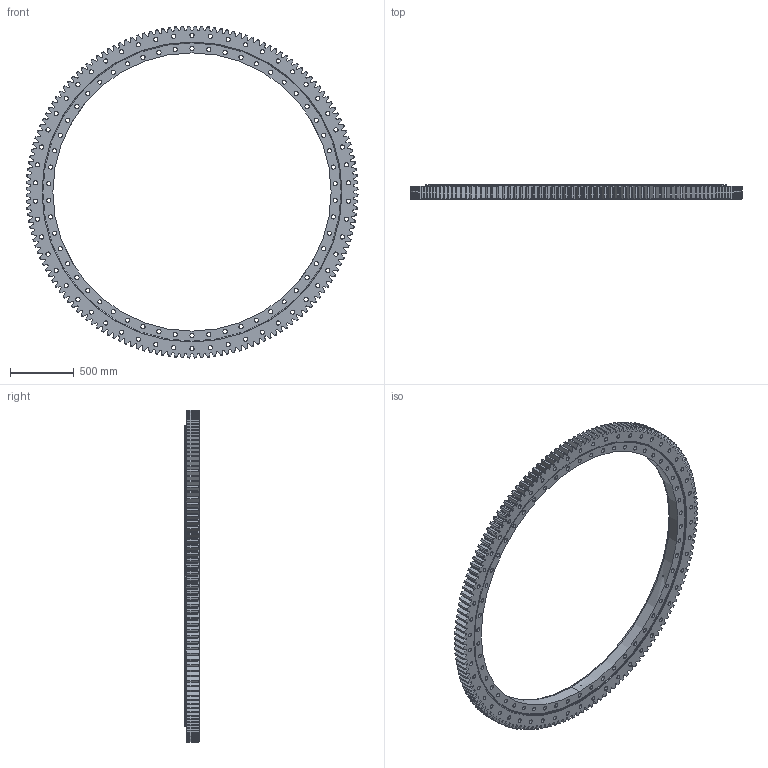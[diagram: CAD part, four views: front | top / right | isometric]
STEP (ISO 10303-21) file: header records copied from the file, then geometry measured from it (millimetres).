
FILE_DESCRIPTION (( 'STEP AP214' ), '1' );
FILE_NAME ('B2150-2-2609AA.STEP', '2022-11-28T14:30:21', ( '' ), ( '' ), 'SwSTEP 2.0', 'SolidWorks 2020', '' );
FILE_SCHEMA (( 'AUTOMOTIVE_DESIGN' ));
Length unit declared in the file: millimetre
Products named in the file (1): B2150-2-2609AA
Bounding box: 2604.54 x 110 x 2604.54 mm (x, y, z)
Volume: 135318910.5 mm3; surface area: 8276681.6 mm2
Topology: 4 solids, 4 shells, 1431 faces, 4208 edges, 2804 vertices
Faces by surface type: plane 667, cylinder 436, cone 328
Entity records: 50003 total; most frequent: CARTESIAN_POINT 12488, ORIENTED_EDGE 8416, DIRECTION 7084, EDGE_CURVE 4208, VERTEX_POINT 2804, AXIS2_PLACEMENT_3D 2600, LINE 1884, VECTOR 1884
